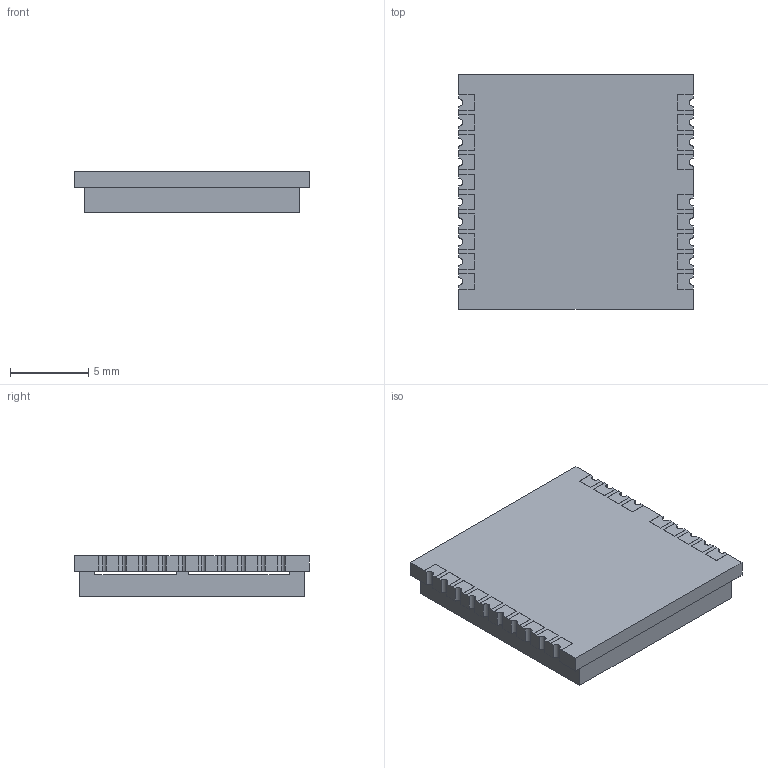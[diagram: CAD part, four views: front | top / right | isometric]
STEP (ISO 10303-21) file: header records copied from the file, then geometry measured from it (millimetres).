
FILE_DESCRIPTION (( 'STEP AP203' ), '1' );
FILE_NAME ('HI05-3D.STEP', '2025-06-27T12:35:13', ( '' ), ( '' ), 'SwSTEP 2.0', 'SolidWorks 2016', '' );
FILE_SCHEMA (( 'CONFIG_CONTROL_DESIGN' ));
Length unit declared in the file: millimetre
Products named in the file (1): HI05-3D
Bounding box: 15 x 15 x 2.61 mm (x, y, z)
Volume: 276.9 mm3; surface area: 1063.4 mm2
Topology: 2 solids, 2 shells, 219 faces, 636 edges, 424 vertices
Faces by surface type: plane 155, cylinder 64
Entity records: 7273 total; most frequent: CARTESIAN_POINT 1280, ORIENTED_EDGE 1272, DIRECTION 1204, EDGE_CURVE 636, LINE 508, VECTOR 508, VERTEX_POINT 424, AXIS2_PLACEMENT_3D 348
